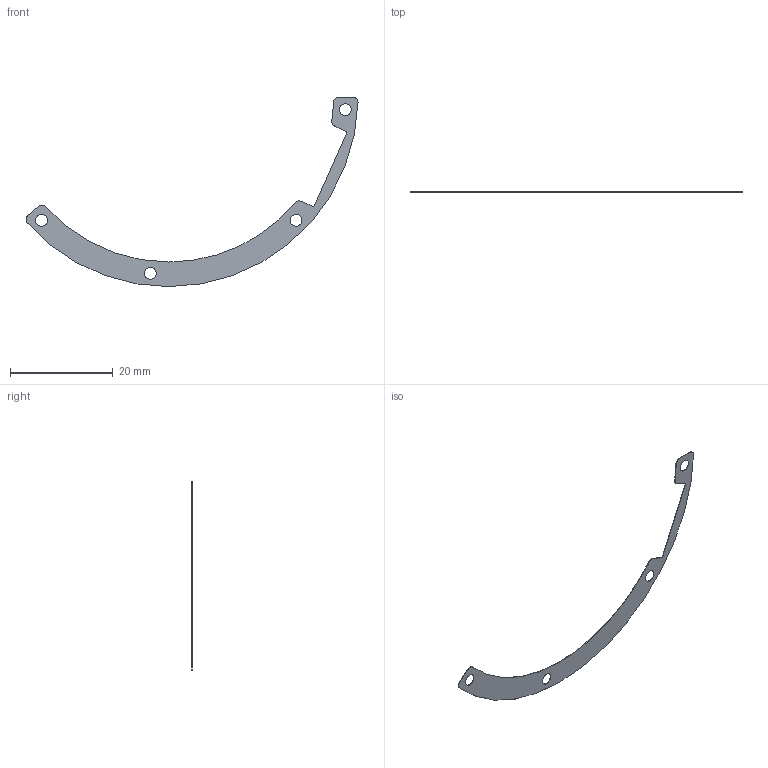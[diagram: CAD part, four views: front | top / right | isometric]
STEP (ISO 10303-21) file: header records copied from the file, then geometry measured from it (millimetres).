
FILE_DESCRIPTION (( 'STEP AP214' ), '1' );
FILE_NAME ('MN02238D02_01.STEP', '2023-12-18T13:17:14', ( '' ), ( '' ), 'SwSTEP 2.0', 'SolidWorks 2022', '' );
FILE_SCHEMA (( 'AUTOMOTIVE_DESIGN' ));
Length unit declared in the file: millimetre
Products named in the file (1): MN02238D02_01
Bounding box: 64.73 x 0.1 x 36.9 mm (x, y, z)
Volume: 34.3 mm3; surface area: 707.6 mm2
Topology: 1 solids, 1 shells, 29 faces, 81 edges, 54 vertices
Faces by surface type: cylinder 22, plane 7
Entity records: 1009 total; most frequent: DIRECTION 185, CARTESIAN_POINT 165, ORIENTED_EDGE 162, EDGE_CURVE 81, AXIS2_PLACEMENT_3D 74, VERTEX_POINT 54, CIRCLE 44, EDGE_LOOP 37
